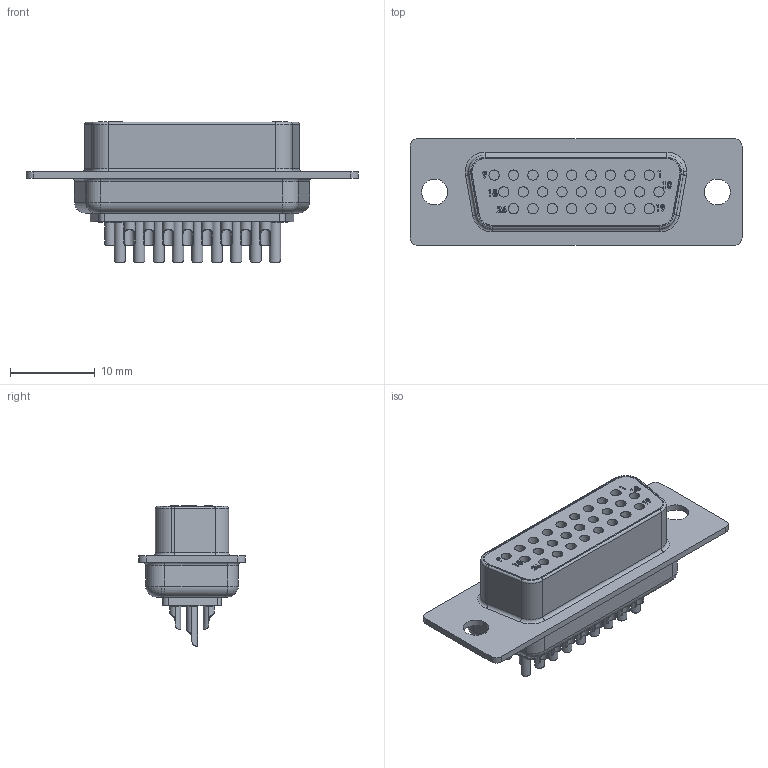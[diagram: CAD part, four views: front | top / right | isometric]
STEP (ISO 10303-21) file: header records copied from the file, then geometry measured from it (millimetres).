
FILE_DESCRIPTION(/* description */ ('VariCAD 2008 3.04 AP-203'),/* implementation_level */ '2;1');
FILE_NAME(/* name */ '0353-01-11',/* time_stamp */ '2009-04-29T21:37:05-06:00',/* author */ (''),/* organization */ (''),/* preprocessor_version */ 'ST-DEVELOPER v12',/* originating_system */ 'VariCAD 2008 3.04; kernel version (20080715)',/* authorisation */ '');
FILE_SCHEMA (('CONFIG_CONTROL_DESIGN'));
Length unit declared in the file: millimetre
Products named in the file (1): Part
Bounding box: 39.14 x 12.6 x 16.54 mm (x, y, z)
Volume: 2737.3 mm3; surface area: 3523.1 mm2
Topology: 1 solids, 1 shells, 733 faces, 1788 edges, 1146 vertices
Faces by surface type: cylinder 302, plane 299, bspline 112, torus 20
Entity records: 33953 total; most frequent: CARTESIAN_POINT 17620, ORIENTED_EDGE 3576, DIRECTION 2936, EDGE_CURVE 1788, VERTEX_POINT 1146, AXIS2_PLACEMENT_3D 1001, LINE 934, VECTOR 934
